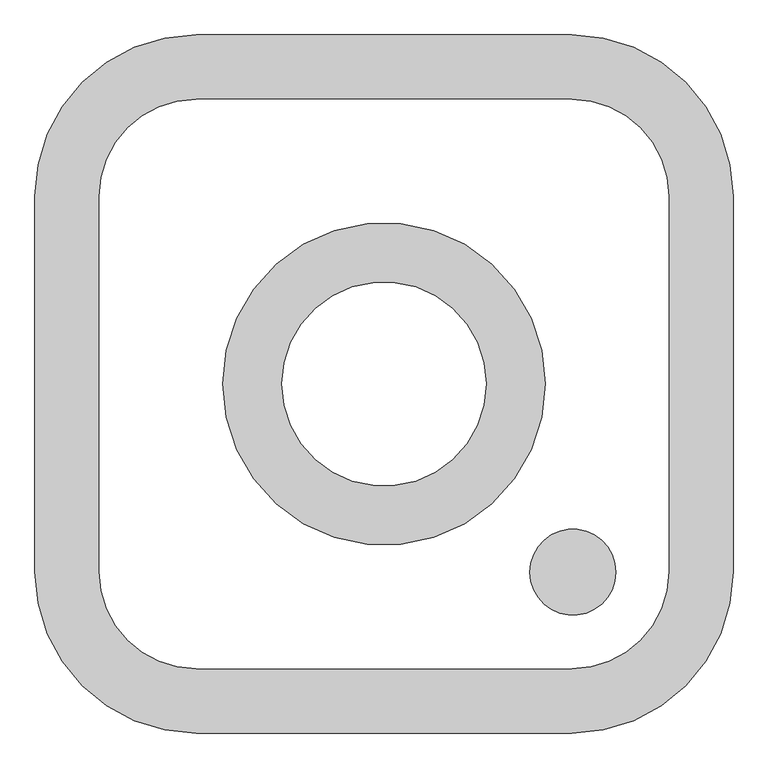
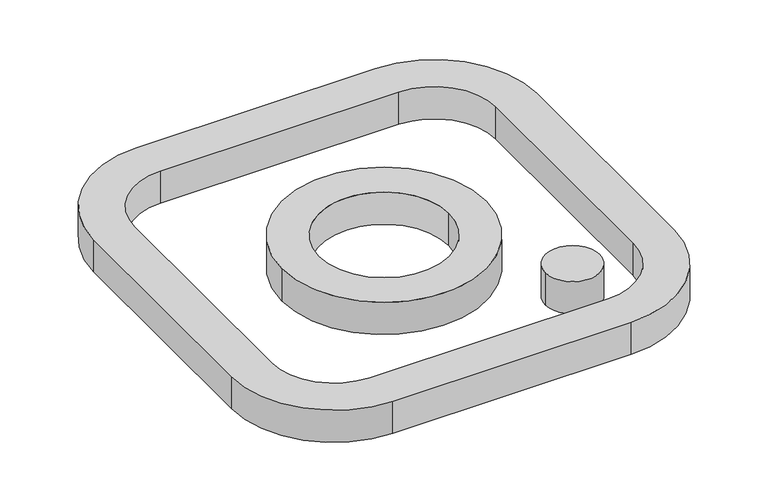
"""IFC4 building model written with IfcOpenShell, lengths in millimetres: proxy geometry, Blks_Instagram1 : Único 2."""

import ifcopenshell
import ifcopenshell.guid

model = None  # the IFC model being written
_history = None  # IfcOwnerHistory: only IFC2X3 demands one
_inside = {}  # id of a spatial element -> (the spatial element, [elements in it])
_under = {}  # id of a project, library or spatial element -> (it, [spatial elements below it])
_declared = {}  # id of a project -> (the project, [libraries it declares])
_typed = {}  # id of a type object -> (the type object, [elements of that type])
_made_of = {}  # id of a material, layer set ... -> (it, [elements and type objects made of it])


def new_model(schema):
    """Start an empty IFC model of exactly this schema.

    Asked for "IFC4X3", IfcOpenShell would pick the latest addendum, in which some entities
    have other attributes; the version numbers below select the first issue.
    IFC2X3 requires an IfcOwnerHistory on every rooted entity: one is made here for all.
    """
    global model, _history
    if schema == "IFC4X3":
        model = ifcopenshell.file(schema_version=(4, 3, 0, 0))
    else:
        model = ifcopenshell.file(schema=schema)
    _inside.clear()
    _under.clear()
    _declared.clear()
    _typed.clear()
    _made_of.clear()
    _history = None
    if model.schema == "IFC2X3":
        org = make("IfcOrganization", Name="unknown")
        user = make(
            "IfcPersonAndOrganization",
            ThePerson=make("IfcPerson", FamilyName="unknown"),
            TheOrganization=org,
        )
        app = make(
            "IfcApplication",
            ApplicationDeveloper=org,
            Version="unknown",
            ApplicationFullName="unknown",
            ApplicationIdentifier="unknown",
        )
        _history = make(
            "IfcOwnerHistory",
            OwningUser=user,
            OwningApplication=app,
            ChangeAction="ADDED",
            CreationDate=0,
        )
    return model


def make(cls, **values):
    """One entity of the class cls with the attributes given. An attribute that is None is left unset."""
    return model.create_entity(
        cls, **{name: value for name, value in values.items() if value is not None}
    )


def rooted(cls, **values):
    """An entity with a GlobalId (a new one), such as an element, a storey or a relation."""
    return make(cls, GlobalId=ifcopenshell.guid.new(), OwnerHistory=_history, **values)


def si_unit(unit_type, name, prefix=None):
    """IfcSIUnit, for example si_unit("LENGTHUNIT", "METRE", prefix="MILLI")."""
    return make("IfcSIUnit", UnitType=unit_type, Prefix=prefix, Name=name)


def assignment(units):
    """IfcUnitAssignment: the units of a project."""
    return None if units is None else make("IfcUnitAssignment", Units=units)


def point(xyz):
    """IfcCartesianPoint."""
    return None if xyz is None else make("IfcCartesianPoint", Coordinates=xyz)


def direction(xyz):
    """IfcDirection."""
    return None if xyz is None else make("IfcDirection", DirectionRatios=xyz)


def frame(location, z_axis=None, x_axis=None):
    """IfcAxis2Placement3D, a coordinate frame: its origin and axes. An axis left out is left unset."""
    return make(
        "IfcAxis2Placement3D",
        Location=point(location),
        Axis=direction(z_axis),
        RefDirection=direction(x_axis),
    )


def frame_2d(location, x_axis=None):
    """IfcAxis2Placement2D, a coordinate frame in the plane: its origin and x axis."""
    return make(
        "IfcAxis2Placement2D", Location=point(location), RefDirection=direction(x_axis)
    )


def origin():
    """The frame at (0, 0, 0) with its axes left unset."""
    return frame((0.0, 0.0, 0.0))


def origin_with_axes():
    """The frame at (0, 0, 0) with the z axis (0, 0, 1) and the x axis (1, 0, 0) written out."""
    return frame((0.0, 0.0, 0.0), z_axis=(0.0, 0.0, 1.0), x_axis=(1.0, 0.0, 0.0))


def origin_2d():
    """The frame at (0, 0) in the plane with its x axis left unset."""
    return frame_2d((0.0, 0.0))


def place(relative_to, where):
    """IfcLocalPlacement: puts the frame where relative to a parent placement (None: the world)."""
    return make(
        "IfcLocalPlacement", PlacementRelTo=relative_to, RelativePlacement=where
    )


def context(
    kind, dimensions, precision=None, world=None, true_north=None, identifier=None
):
    """IfcGeometricRepresentationContext, for example the 3D "Model" context."""
    return make(
        "IfcGeometricRepresentationContext",
        ContextIdentifier=identifier,
        ContextType=kind,
        CoordinateSpaceDimension=dimensions,
        Precision=precision,
        WorldCoordinateSystem=world,
        TrueNorth=true_north,
    )


def project(units=None, contexts=None):
    """IfcProject with its units and contexts."""
    return rooted(
        "IfcProject",
        Name="project",
        RepresentationContexts=contexts,
        UnitsInContext=assignment(units),
    )


def spatial(cls, under=None, at=None, **own):
    """A site, building, storey or space (cls), placed at a placement, below another one or the project."""
    s = rooted(cls, ObjectPlacement=at, **own)
    if under is not None:
        _under.setdefault(under.id(), (under, []))[1].append(s)
    return s


def polyline(points):
    """IfcPolyline through the points."""
    return make("IfcPolyline", Points=[point(p) for p in points])


def circle_curve(where, radius):
    """IfcCircle in the frame where."""
    return make("IfcCircle", Position=where, Radius=radius)


def trimmed(basis, trim1, trim2, sense, master):
    """IfcTrimmedCurve: the piece of a basis curve between two trims."""
    return make(
        "IfcTrimmedCurve",
        BasisCurve=basis,
        Trim1=trim1,
        Trim2=trim2,
        SenseAgreement=sense,
        MasterRepresentation=master,
    )


def segment(curve, same_sense, transition):
    """IfcCompositeCurveSegment."""
    return make(
        "IfcCompositeCurveSegment",
        Transition=transition,
        SameSense=same_sense,
        ParentCurve=curve,
    )


def composite_curve(segments, self_intersect=None):
    """IfcCompositeCurve: segments joined end to end."""
    return make("IfcCompositeCurve", Segments=segments, SelfIntersect=self_intersect)


def outline(outer, holes=None, kind="AREA"):
    """IfcArbitraryClosedProfileDef: a profile drawn as a closed curve; with holes, ...WithVoids."""
    if holes is None:
        return make("IfcArbitraryClosedProfileDef", ProfileType=kind, OuterCurve=outer)
    return make(
        "IfcArbitraryProfileDefWithVoids",
        ProfileType=kind,
        OuterCurve=outer,
        InnerCurves=holes,
    )


def extrude(swept, where, along, depth):
    """IfcExtrudedAreaSolid: the profile swept, set in the frame where, extruded along a direction by depth."""
    return make(
        "IfcExtrudedAreaSolid",
        SweptArea=swept,
        Position=where,
        ExtrudedDirection=direction(along),
        Depth=depth,
    )


def shape(context_of_items, identifier, shape_type, items):
    """IfcShapeRepresentation: the items that make up one representation, for example the "Body"."""
    return make(
        "IfcShapeRepresentation",
        ContextOfItems=context_of_items,
        RepresentationIdentifier=identifier,
        RepresentationType=shape_type,
        Items=items,
    )


def source(mapping_origin, context_of_items, identifier, shape_type, items):
    """IfcRepresentationMap: a shape defined once, which mapped items show again and again."""
    return make(
        "IfcRepresentationMap",
        MappingOrigin=mapping_origin,
        MappedRepresentation=shape(context_of_items, identifier, shape_type, items),
    )


def transform(
    local_origin,
    x_axis=None,
    y_axis=None,
    z_axis=None,
    scale=None,
    scale2=None,
    scale3=None,
    uniform=True,
):
    """IfcCartesianTransformationOperator3D, or its non-uniform kind. x_axis, y_axis, z_axis: its Axis1, 2, 3."""
    if uniform:
        return make(
            "IfcCartesianTransformationOperator3D",
            Axis1=direction(x_axis),
            Axis2=direction(y_axis),
            LocalOrigin=point(local_origin),
            Scale=scale,
            Axis3=direction(z_axis),
        )
    return make(
        "IfcCartesianTransformationOperator3DnonUniform",
        Axis1=direction(x_axis),
        Axis2=direction(y_axis),
        LocalOrigin=point(local_origin),
        Scale=scale,
        Axis3=direction(z_axis),
        Scale2=scale2,
        Scale3=scale3,
    )


def mapped(mapping_source, mapping_target):
    """IfcMappedItem: shows the shape of a source again, moved by a transform."""
    return make(
        "IfcMappedItem", MappingSource=mapping_source, MappingTarget=mapping_target
    )


def made_of(thing, what):
    """Note that an element or type object is made of a material, layer set ...; save() writes the relation."""
    if what is not None:
        _made_of.setdefault(what.id(), (what, []))[1].append(thing)
    return thing


def element(
    cls,
    number,
    at=None,
    inside=None,
    cuts=None,
    type_object=None,
    material=None,
    context=None,
    identifier="Body",
    shape_type=None,
    held_by="IfcProductDefinitionShape",
    body=None,
    shapes=None,
    **own,
):
    """One element of the class cls, such as IfcWall. Its Tag is "e" and its number.

    at: its placement. inside: the storey or other place that contains it. cuts: it is an
    opening in that element (IfcRelVoidsElement). A single representation is given by context,
    identifier, shape_type and body (its items); several are given by shapes. held_by: the class
    of the entity that holds the representations. save() writes the other relations.
    """
    e = rooted(cls, Tag="e%d" % number, ObjectPlacement=at, **own)
    if body is not None:
        shapes = [shape(context, identifier, shape_type, body)]
    if shapes is not None:
        e.Representation = make(held_by, Representations=shapes)
    if inside is not None:
        _inside.setdefault(inside.id(), (inside, []))[1].append(e)
    if cuts is not None:
        rooted(
            "IfcRelVoidsElement", RelatingBuildingElement=cuts, RelatedOpeningElement=e
        )
    if type_object is not None:
        _typed.setdefault(type_object.id(), (type_object, []))[1].append(e)
    return made_of(e, material)


def aggregate(whole, parts):
    """IfcRelAggregates: a whole, such as a stair, and the parts it consists of."""
    return rooted("IfcRelAggregates", RelatingObject=whole, RelatedObjects=parts)


def save(model, path):
    """Write the relations noted so far, then the file.

    IfcRelAggregates (storeys below a building ...), IfcRelContainedInSpatialStructure (elements
    in a storey), IfcRelDefinesByType, IfcRelAssociatesMaterial and IfcRelDeclares: one each for
    every whole, place, type object, material and project.
    """
    for whole, parts in _under.values():
        aggregate(whole, parts)
    for where, things in _inside.values():
        rooted(
            "IfcRelContainedInSpatialStructure",
            RelatedElements=things,
            RelatingStructure=where,
        )
    for kind, things in _typed.values():
        rooted("IfcRelDefinesByType", RelatedObjects=things, RelatingType=kind)
    for what, things in _made_of.values():
        rooted("IfcRelAssociatesMaterial", RelatedObjects=things, RelatingMaterial=what)
    for by, libraries in _declared.values():
        rooted("IfcRelDeclares", RelatingContext=by, RelatedDefinitions=libraries)
    model.write(path)


def generic_models_d67f6705(model_context):
    return source(origin(), model_context, "Body", "SweptSolid", [
        extrude(outline(composite_curve([segment(polyline([(650.0, 350.0), (650.0, -350.0)]), True, "CONTINUOUS"), segment(trimmed(circle_curve(frame_2d((350.0, -350.0)), 300.0), [point((650.0, -350.0))], [point((350.0, -650.0))], False, "CARTESIAN"), True, "CONTINUOUS"), segment(polyline([(350.0, -650.0), (-350.0, -650.0)]), True, "CONTINUOUS"), segment(trimmed(circle_curve(frame_2d((-350.0, -350.0)), 300.0), [point((-350.0, -650.0))], [point((-650.0, -350.0))], False, "CARTESIAN"), True, "CONTINUOUS"), segment(polyline([(-650.0, -350.0), (-650.0, 350.0)]), True, "CONTINUOUS"), segment(trimmed(circle_curve(frame_2d((-350.0, 350.0)), 300.0), [point((-650.0, 350.0))], [point((-350.0, 650.0))], False, "CARTESIAN"), True, "CONTINUOUS"), segment(polyline([(-350.0, 650.0), (350.0, 650.0)]), True, "CONTINUOUS"), segment(trimmed(circle_curve(frame_2d((350.0, 350.0)), 300.0), [point((350.0, 650.0))], [point((650.0, 350.0))], False, "CARTESIAN"), True, "CONTINUOUS")], self_intersect=False), holes=[composite_curve([segment(trimmed(circle_curve(frame_2d((-350.0, -350.0)), 180.0), [point((-530.0, -350.0))], [point((-350.0, -530.0))], True, "CARTESIAN"), True, "CONTINUOUS"), segment(polyline([(-350.0, -530.0), (350.0, -530.0)]), True, "CONTINUOUS"), segment(trimmed(circle_curve(frame_2d((350.0, -350.0)), 180.0), [point((350.0, -530.0))], [point((530.0, -350.0))], True, "CARTESIAN"), True, "CONTINUOUS"), segment(polyline([(530.0, -350.0), (530.0, 350.0)]), True, "CONTINUOUS"), segment(trimmed(circle_curve(frame_2d((350.0, 350.0)), 180.0), [point((530.0, 350.0))], [point((350.0, 530.0))], True, "CARTESIAN"), True, "CONTINUOUS"), segment(polyline([(350.0, 530.0), (-350.0, 530.0)]), True, "CONTINUOUS"), segment(trimmed(circle_curve(frame_2d((-350.0, 350.0)), 180.0), [point((-350.0, 530.0))], [point((-530.0, 350.0))], True, "CARTESIAN"), True, "CONTINUOUS"), segment(polyline([(-530.0, 350.0), (-530.0, -350.0)]), True, "CONTINUOUS")], self_intersect=False)]), origin_with_axes(), (0.0, 0.0, 1.0), 100.0),
        extrude(outline(composite_curve([segment(trimmed(circle_curve(origin_2d(), 300.0), [point((-300.0, 0.0))], [point((300.0, 0.0))], False, "CARTESIAN"), True, "CONTINUOUS"), segment(trimmed(circle_curve(origin_2d(), 300.0), [point((300.0, 0.0))], [point((-300.0, 0.0))], False, "CARTESIAN"), True, "CONTINUOUS")], self_intersect=False), holes=[composite_curve([segment(trimmed(circle_curve(origin_2d(), 190.0), [point((-190.0, 0.0))], [point((190.0, 0.0))], True, "CARTESIAN"), True, "CONTINUOUS"), segment(trimmed(circle_curve(origin_2d(), 190.0), [point((190.0, 0.0))], [point((-190.0, 0.0))], True, "CARTESIAN"), True, "CONTINUOUS")], self_intersect=False)]), origin_with_axes(), (0.0, 0.0, 1.0), 100.0),
        extrude(outline(composite_curve([segment(trimmed(circle_curve(frame_2d((351.5200499, -350.3863581)), 80.0), [point((271.5200499, -350.3863581))], [point((431.5200499, -350.3863581))], False, "CARTESIAN"), True, "CONTINUOUS"), segment(trimmed(circle_curve(frame_2d((351.5200499, -350.3863581)), 80.0), [point((431.5200499, -350.3863581))], [point((271.5200499, -350.3863581))], False, "CARTESIAN"), True, "CONTINUOUS")], self_intersect=False)), origin_with_axes(), (0.0, 0.0, 1.0), 100.0),
    ])


if __name__ == "__main__":
    model = new_model("IFC4")
    model_context = context("Model", 3, world=origin())
    ifc_project = project(units=[si_unit("LENGTHUNIT", "METRE", prefix="MILLI")], contexts=[model_context])
    site = spatial("IfcSite", under=ifc_project)
    building = spatial("IfcBuilding", under=site)
    placement = place(None, origin())
    generic_models_shape = generic_models_d67f6705(model_context)
    element("IfcBuildingElementProxy", 1, Name="Blks_Instagram1 : Único 2", ObjectType="Blks_Instagram1 : Único 2", at=placement, inside=building, context=model_context, shape_type="MappedRepresentation", body=[
        mapped(generic_models_shape, transform((0.0, 0.0, 0.0), x_axis=(1.0, 0.0, 0.0), y_axis=(0.0, 1.0, 0.0), z_axis=(0.0, 0.0, 1.0))),
    ])
    save(model, "model.ifc")
